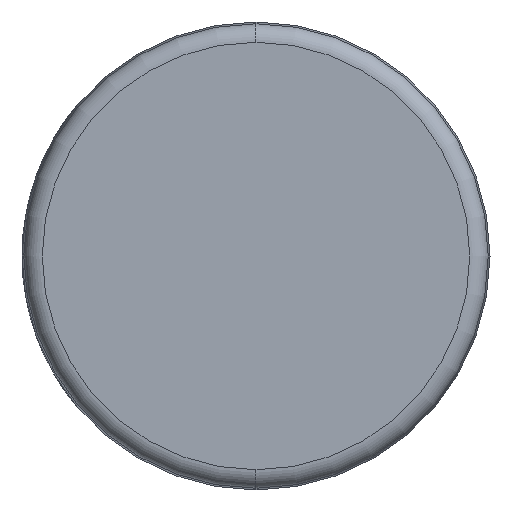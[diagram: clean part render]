
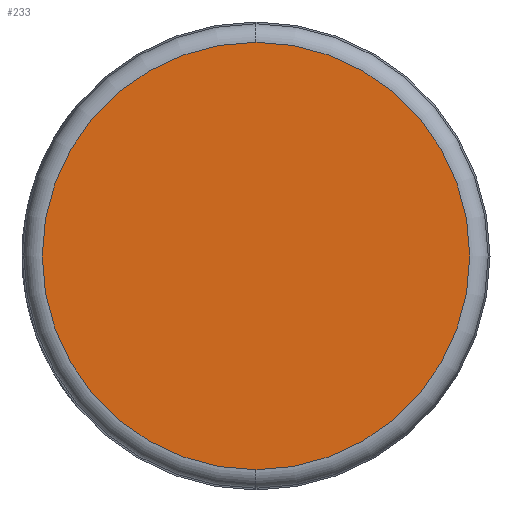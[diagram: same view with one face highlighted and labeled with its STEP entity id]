
A CAD part, left-side view. The second image highlights one B-rep face of the part: STEP entity #233.
In plain terms, the highlighted planar face has unit normal (-1, 0, 0).
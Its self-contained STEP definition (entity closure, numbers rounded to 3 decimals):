
#37 = DIRECTION ( 'NONE',  ( 0., 0., -1. ) ) ;
#58 = EDGE_LOOP ( 'NONE', ( #508, #212 ) ) ;
#66 = DIRECTION ( 'NONE',  ( 1., 0., 0. ) ) ;
#100 = AXIS2_PLACEMENT_3D ( 'NONE', #678, #743, #37 ) ;
#124 = DIRECTION ( 'NONE',  ( 0., 0., -1. ) ) ;
#212 = ORIENTED_EDGE ( 'NONE', *, *, #363, .T. ) ;
#233 = ADVANCED_FACE ( 'NONE', ( #343 ), #552, .F. ) ;
#268 = DIRECTION ( 'NONE',  ( 0., 0., -1. ) ) ;
#272 = DIRECTION ( 'NONE',  ( -1., 0., 0. ) ) ;
#292 = CARTESIAN_POINT ( 'NONE',  ( 0., 0., 0. ) ) ;
#319 = CIRCLE ( 'NONE', #100, 28.772 ) ;
#343 = FACE_OUTER_BOUND ( 'NONE', #58, .T. ) ;
#363 = EDGE_CURVE ( 'NONE', #540, #605, #424, .T. ) ;
#369 = CARTESIAN_POINT ( 'NONE',  ( 0., 0., 0. ) ) ;
#391 = CARTESIAN_POINT ( 'NONE',  ( 0., 0., 28.772 ) ) ;
#401 = AXIS2_PLACEMENT_3D ( 'NONE', #369, #66, #124 ) ;
#424 = CIRCLE ( 'NONE', #752, 28.772 ) ;
#508 = ORIENTED_EDGE ( 'NONE', *, *, #725, .T. ) ;
#540 = VERTEX_POINT ( 'NONE', #391 ) ;
#552 = PLANE ( 'NONE',  #401 ) ;
#605 = VERTEX_POINT ( 'NONE', #686 ) ;
#678 = CARTESIAN_POINT ( 'NONE',  ( 0., 0., 0. ) ) ;
#686 = CARTESIAN_POINT ( 'NONE',  ( 0., 0., -28.772 ) ) ;
#725 = EDGE_CURVE ( 'NONE', #605, #540, #319, .T. ) ;
#743 = DIRECTION ( 'NONE',  ( -1., 0., 0. ) ) ;
#752 = AXIS2_PLACEMENT_3D ( 'NONE', #292, #272, #268 ) ;
